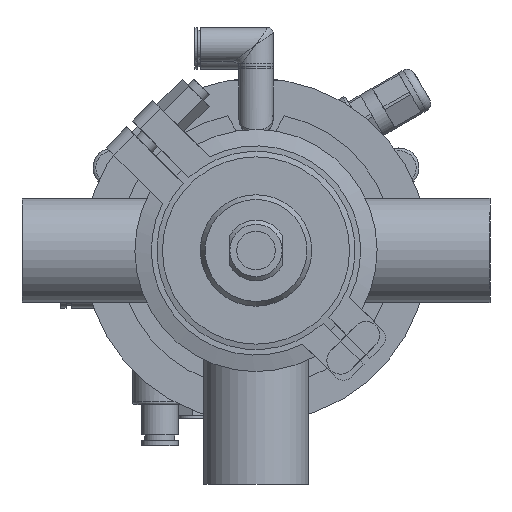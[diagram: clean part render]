
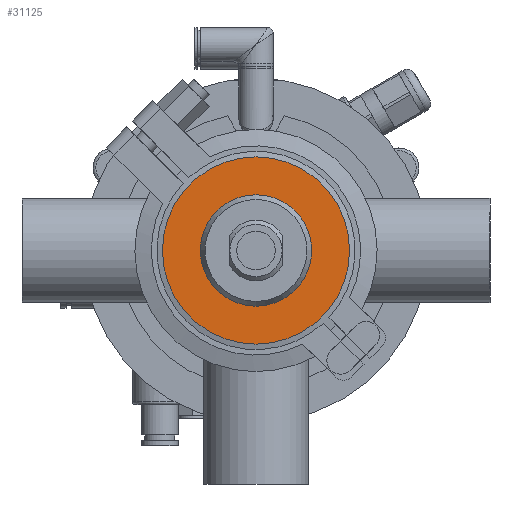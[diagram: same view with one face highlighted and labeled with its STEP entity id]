
A CAD part, front view. The second image highlights one B-rep face of the part: STEP entity #31125.
In plain terms, the highlighted planar face has unit normal (0, -1, 0).
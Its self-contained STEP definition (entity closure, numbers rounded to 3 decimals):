
#1669 = EDGE_CURVE ( 'NONE', #37373, #37373, #58134, .T. ) ;
#5213 = CARTESIAN_POINT ( 'NONE',  ( 0., -13., 0. ) ) ;
#7075 = CARTESIAN_POINT ( 'NONE',  ( 0., -13., 20.25 ) ) ;
#7270 = EDGE_LOOP ( 'NONE', ( #10766 ) ) ;
#8527 = EDGE_LOOP ( 'NONE', ( #29898 ) ) ;
#9740 = AXIS2_PLACEMENT_3D ( 'NONE', #37485, #61169, #21723 ) ;
#9748 = DIRECTION ( 'NONE',  ( 0., -1., 0. ) ) ;
#10766 = ORIENTED_EDGE ( 'NONE', *, *, #1669, .F. ) ;
#18374 = FACE_BOUND ( 'NONE', #8527, .T. ) ;
#20288 = CARTESIAN_POINT ( 'NONE',  ( -34., -13., 0. ) ) ;
#21723 = DIRECTION ( 'NONE',  ( 0., 0., 1. ) ) ;
#27672 = EDGE_CURVE ( 'NONE', #41285, #41285, #38062, .T. ) ;
#29898 = ORIENTED_EDGE ( 'NONE', *, *, #27672, .T. ) ;
#31125 = ADVANCED_FACE ( 'NONE', ( #18374, #32643 ), #51894, .T. ) ;
#32643 = FACE_OUTER_BOUND ( 'NONE', #7270, .T. ) ;
#34725 = DIRECTION ( 'NONE',  ( 0., 1., 0. ) ) ;
#37373 = VERTEX_POINT ( 'NONE', #61057 ) ;
#37485 = CARTESIAN_POINT ( 'NONE',  ( 0., -13., 0. ) ) ;
#38062 = CIRCLE ( 'NONE', #9740, 20.25 ) ;
#38901 = DIRECTION ( 'NONE',  ( 0., 0., -1. ) ) ;
#41285 = VERTEX_POINT ( 'NONE', #7075 ) ;
#43939 = AXIS2_PLACEMENT_3D ( 'NONE', #20288, #9748, #38901 ) ;
#48618 = DIRECTION ( 'NONE',  ( 0., 0., 1. ) ) ;
#51894 = PLANE ( 'NONE',  #43939 ) ;
#58134 = CIRCLE ( 'NONE', #62146, 34. ) ;
#61057 = CARTESIAN_POINT ( 'NONE',  ( 0., -13., 34. ) ) ;
#61169 = DIRECTION ( 'NONE',  ( 0., 1., 0. ) ) ;
#62146 = AXIS2_PLACEMENT_3D ( 'NONE', #5213, #34725, #48618 ) ;
